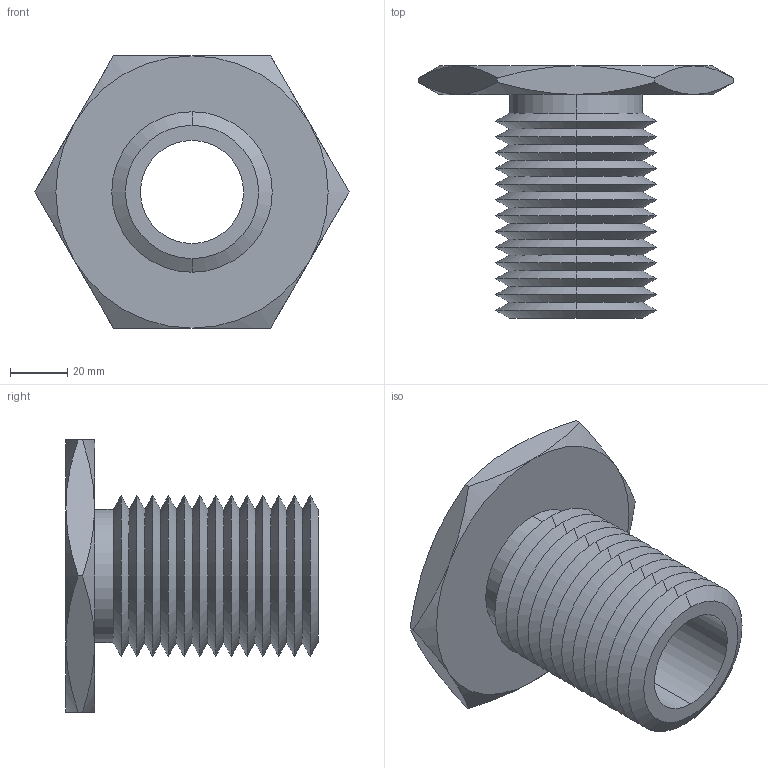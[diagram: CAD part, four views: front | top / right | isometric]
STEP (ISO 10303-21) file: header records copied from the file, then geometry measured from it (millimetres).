
FILE_DESCRIPTION (( 'STEP AP203' ), '1' );
FILE_NAME ('63302.W0056_M36x4.step', '2013-12-08T11:22:27', ( 'User' ), ( '' ), 'SwSTEP 2.0', 'SolidWorks 2009', '' );
FILE_SCHEMA (( 'CONFIG_CONTROL_DESIGN' ));
Length unit declared in the file: millimetre
Products named in the file (1): 63302.W0056_M36x4
Bounding box: 109.7 x 88 x 95 mm (x, y, z)
Volume: 144624.9 mm3; surface area: 49829.7 mm2
Topology: 1 solids, 1 shells, 79 faces, 162 edges, 86 vertices
Faces by surface type: cone 66, plane 9, cylinder 4
Entity records: 2271 total; most frequent: CARTESIAN_POINT 544, DIRECTION 372, ORIENTED_EDGE 324, EDGE_CURVE 162, AXIS2_PLACEMENT_3D 154, VERTEX_POINT 86, EDGE_LOOP 82, ADVANCED_FACE 79
